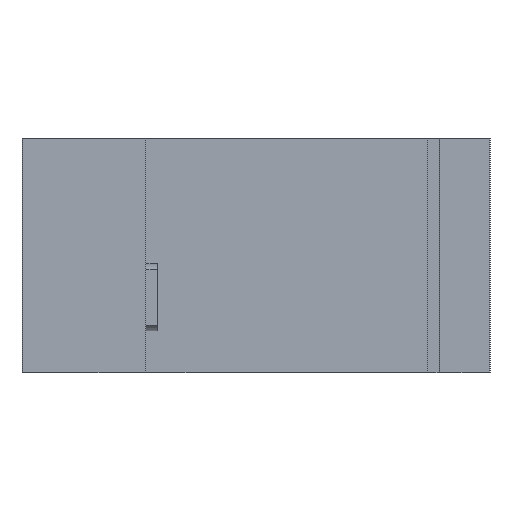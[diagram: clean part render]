
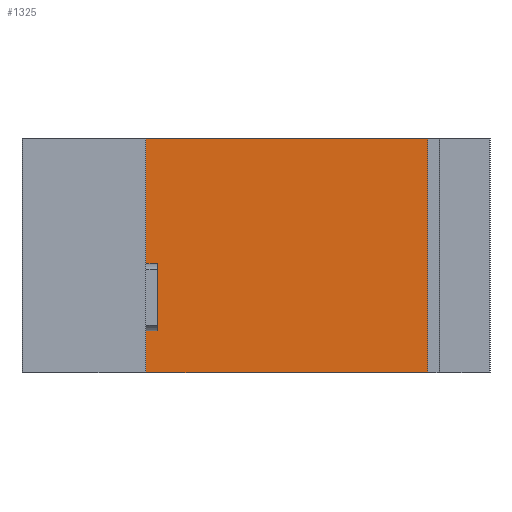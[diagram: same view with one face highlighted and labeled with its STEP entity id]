
A CAD part, front view. The second image highlights one B-rep face of the part: STEP entity #1325.
In plain terms, the highlighted planar face has unit normal (0, -1, 0).
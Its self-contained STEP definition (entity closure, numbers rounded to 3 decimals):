
#595 = VERTEX_POINT( '', #1745 );
#623 = VERTEX_POINT( '', #1778 );
#641 = EDGE_CURVE( '', #623, #595, #1797, .T. );
#709 = VERTEX_POINT( '', #1870 );
#1029 = EDGE_CURVE( '', #1577, #1169, #2222, .T. );
#1045 = EDGE_CURVE( '', #1345, #1577, #2238, .T. );
#1151 = VERTEX_POINT( '', #2362 );
#1169 = VERTEX_POINT( '', #2381 );
#1185 = EDGE_CURVE( '', #709, #595, #2398, .T. );
#1195 = EDGE_CURVE( '', #623, #1169, #2408, .T. );
#1283 = VERTEX_POINT( '', #2508 );
#1295 = EDGE_CURVE( '', #1283, #1151, #2521, .T. );
#1325 = ADVANCED_FACE( '', ( #2557 ), #2558, .T. );
#1345 = VERTEX_POINT( '', #2579 );
#1545 = EDGE_CURVE( '', #1151, #709, #2811, .T. );
#1549 = EDGE_CURVE( '', #1345, #1283, #2816, .T. );
#1577 = VERTEX_POINT( '', #2845 );
#1745 = CARTESIAN_POINT( '', ( 19.65, 11.65, -34. ) );
#1778 = CARTESIAN_POINT( '', ( -21.3, 11.65, -34. ) );
#1797 = LINE( '', #3093, #3094 );
#1870 = CARTESIAN_POINT( '', ( 19.65, 11.65, 0. ) );
#2222 = LINE( '', #3678, #3679 );
#2238 = LINE( '', #3704, #3705 );
#2362 = CARTESIAN_POINT( '', ( -21.3, 11.65, 0. ) );
#2381 = CARTESIAN_POINT( '', ( -21.3, 11.65, -25.605 ) );
#2398 = LINE( '', #3917, #3918 );
#2408 = LINE( '', #3934, #3935 );
#2508 = CARTESIAN_POINT( '', ( -21.3, 11.65, -20.395 ) );
#2521 = LINE( '', #4091, #4092 );
#2557 = FACE_OUTER_BOUND( '', #4138, .T. );
#2558 = PLANE( '', #4139 );
#2579 = CARTESIAN_POINT( '', ( -19.65, 11.65, -20.395 ) );
#2811 = LINE( '', #4488, #4489 );
#2816 = LINE( '', #4495, #4496 );
#2845 = CARTESIAN_POINT( '', ( -19.65, 11.65, -25.605 ) );
#3093 = CARTESIAN_POINT( '', ( -19.65, 11.65, -34. ) );
#3094 = VECTOR( '', #4818, 1. );
#3678 = CARTESIAN_POINT( '', ( -2.8, 11.65, -25.605 ) );
#3679 = VECTOR( '', #5273, 1. );
#3704 = CARTESIAN_POINT( '', ( -19.65, 11.65, 0. ) );
#3705 = VECTOR( '', #5283, 1. );
#3917 = CARTESIAN_POINT( '', ( 19.65, 11.65, 0. ) );
#3918 = VECTOR( '', #5444, 1. );
#3934 = CARTESIAN_POINT( '', ( -21.3, 11.65, -34. ) );
#3935 = VECTOR( '', #5450, 1. );
#4091 = CARTESIAN_POINT( '', ( -21.3, 11.65, -20.395 ) );
#4092 = VECTOR( '', #5587, 1. );
#4138 = EDGE_LOOP( '', ( #5646, #5647, #5648, #5649, #5650, #5651, #5652, #5653 ) );
#4139 = AXIS2_PLACEMENT_3D( '', #5654, #5655, #5656 );
#4488 = CARTESIAN_POINT( '', ( -19.65, 11.65, 0. ) );
#4489 = VECTOR( '', #5959, 1. );
#4495 = CARTESIAN_POINT( '', ( -2.8, 11.65, -20.395 ) );
#4496 = VECTOR( '', #5968, 1. );
#4818 = DIRECTION( '', ( 1., 0., 0. ) );
#5273 = DIRECTION( '', ( -1., 0., 0. ) );
#5283 = DIRECTION( '', ( 0., 0., -1. ) );
#5444 = DIRECTION( '', ( 0., 0., -1. ) );
#5450 = DIRECTION( '', ( 0., 0., 1. ) );
#5587 = DIRECTION( '', ( 0., 0., 1. ) );
#5646 = ORIENTED_EDGE( '', *, *, #641, .T. );
#5647 = ORIENTED_EDGE( '', *, *, #1185, .F. );
#5648 = ORIENTED_EDGE( '', *, *, #1545, .F. );
#5649 = ORIENTED_EDGE( '', *, *, #1295, .F. );
#5650 = ORIENTED_EDGE( '', *, *, #1549, .F. );
#5651 = ORIENTED_EDGE( '', *, *, #1045, .T. );
#5652 = ORIENTED_EDGE( '', *, *, #1029, .T. );
#5653 = ORIENTED_EDGE( '', *, *, #1195, .F. );
#5654 = CARTESIAN_POINT( '', ( -19.65, 11.65, 0. ) );
#5655 = DIRECTION( '', ( 0., -1., 0. ) );
#5656 = DIRECTION( '', ( -1., 0., 0. ) );
#5959 = DIRECTION( '', ( 1., 0., 0. ) );
#5968 = DIRECTION( '', ( -1., 0., 0. ) );
